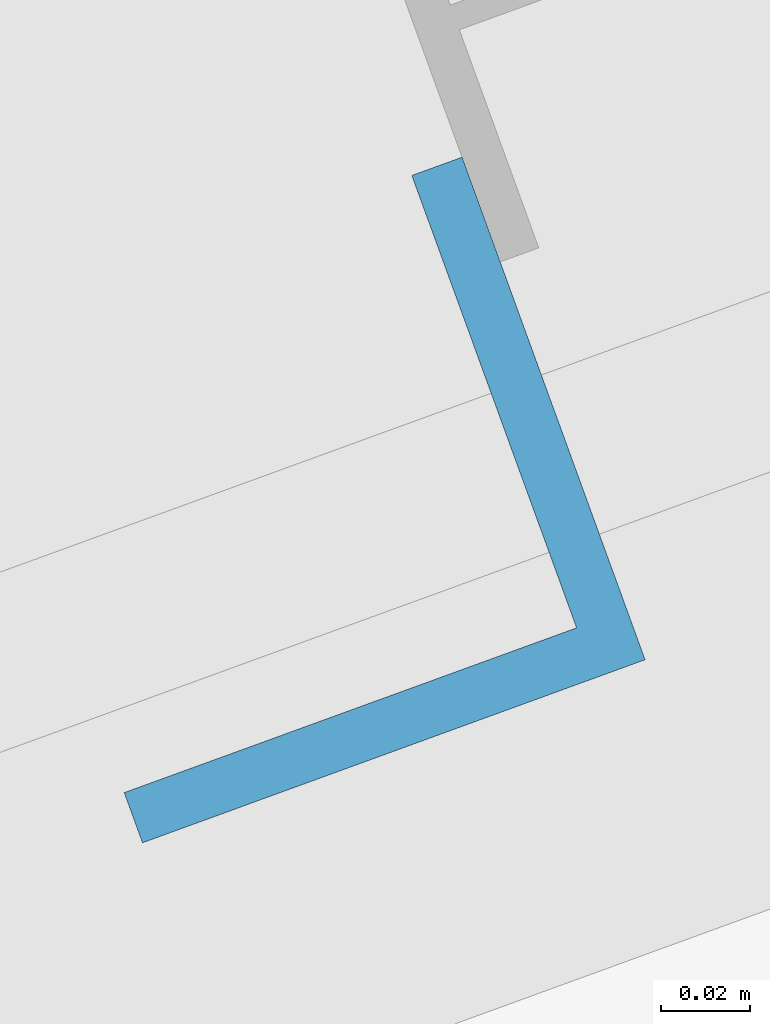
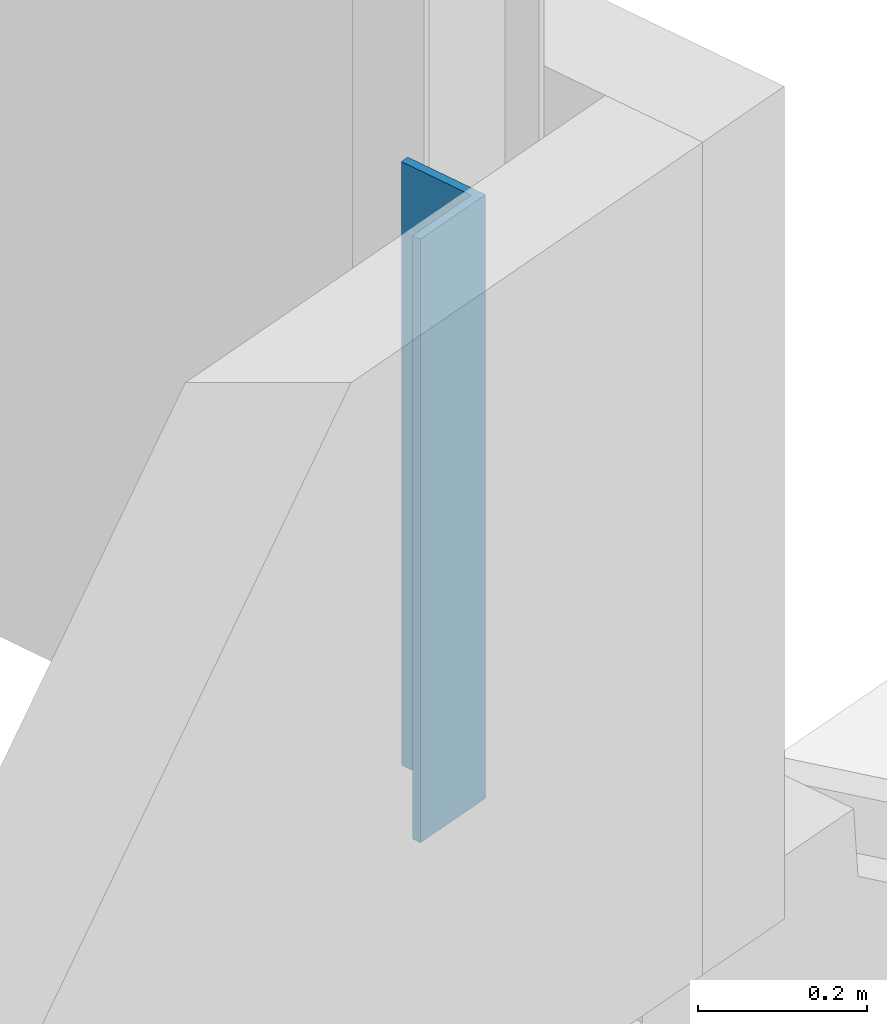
# One storey, part 7 of 20: 1 column, 1 element without a shape of its own.
"""IFC4 building model written with IfcOpenShell, lengths in millimetres."""

from ifc_helpers import new_model, si_unit, direction, frame, origin_with_axes, place, context, subcontext, project, spatial, line, indexed_curve, outline, extrude, material, element, aggregate, save


model = new_model("IFC4")

# Units and contexts
model_context = context("Model", 3, precision=0.2, world=frame((203566.813, 116264.779, 0.0), z_axis=(0.0, 0.0, 1.0), x_axis=(1.0, 0.0, 0.0)), true_north=direction((-0.9396138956, -0.3422363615)))
body_context = subcontext(model_context, "Body", "Model", "MODEL_VIEW")
ifc_project = project(units=[si_unit("LENGTHUNIT", "METRE", prefix="MILLI"), si_unit("AREAUNIT", "SQUARE_METRE"), si_unit("VOLUMEUNIT", "CUBIC_METRE"), si_unit("MASSUNIT", "GRAM", prefix="KILO"), si_unit("TIMEUNIT", "SECOND"), si_unit("PLANEANGLEUNIT", "RADIAN"), si_unit("SOLIDANGLEUNIT", "STERADIAN"), si_unit("THERMODYNAMICTEMPERATUREUNIT", "DEGREE_CELSIUS"), si_unit("LUMINOUSINTENSITYUNIT", "LUMEN")], contexts=[model_context])

# Site, building, storey
site_placement = place(None, origin_with_axes())
site = spatial("IfcSite", under=ifc_project, at=site_placement, Name="Nobelprojektet", CompositionType="ELEMENT")
building_placement = place(site_placement, origin_with_axes())
building = spatial("IfcBuilding", under=site, at=building_placement, Name="Hall B", CompositionType="ELEMENT")
storey_placement = place(building_placement, frame((0.0, 0.0, 1000.0), z_axis=(0.0, 0.0, 1.0), x_axis=(1.0, 0.0, 0.0)))
storey = spatial("IfcBuildingStorey", under=building, at=storey_placement, Name="Plan_1", CompositionType="ELEMENT", Elevation=1000.0)

# Assembly, column
assembly_placement = place(storey_placement, frame((184055.42819, 125186.09874, 132179.99996), z_axis=(-0.9396136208, -0.3422371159, 0.0), x_axis=(0.0, 0.0, 1.0)))
assembly = element("IfcElementAssembly", 1, at=assembly_placement, inside=storey, Name="BEFINTLIG", PredefinedType="NOTDEFINED")
ifc_material = material(Name="S355J2", Category="STEEL")
column_placement = place(assembly_placement, origin_with_axes())
column = element("IfcColumn", 2, at=column_placement, material=ifc_material, Name="BEFINTLIG", PredefinedType="NOTDEFINED", context=body_context, shape_type="SolidModel", body=[
    extrude(outline(indexed_curve([(-60.0, -60.0), (60.0, -60.0), (60.0, -48.0), (-48.0, -48.0), (-48.0, 60.0), (-60.0, 60.0)], segments=[line(1, 2, 3, 4, 5, 6, 1)])), frame((0.0, 0.0, 0.0), z_axis=(-1.0, 0.0, 0.0), x_axis=(0.0, 0.0, 1.0)), (0.0, 0.0, -1.0), 870.0),
])
aggregate(assembly, [column])

save(model, "model.ifc")
